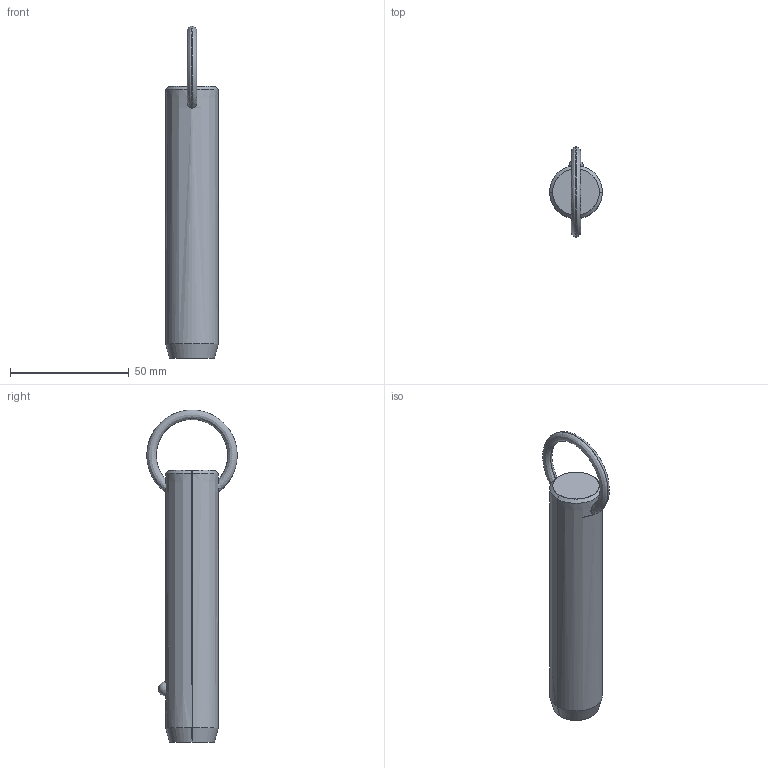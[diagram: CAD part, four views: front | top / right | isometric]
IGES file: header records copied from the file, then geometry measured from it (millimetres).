
Start section: SolidWorks IGES file using analytic representation for surfaces
Global section: file name: C:\Users\liam_\OneDrive\Documents\WORK\Work for WixRoyd\Job Files\J-00019 - Matt Davis CAD Checking\04. CAD Drawings\automotion20190605\P1250.2_v2\P1250.2_v2_20190729_IGES\P1250.087-300.igs; native system: SolidWorks 2017; preprocessor: SolidWorks 2017; author: liam_; date: 190730.000847; units: millimetre
Bounding box: 22.2 x 38.1 x 139.7 mm (x, y, z)
Surface area: 9615.4 mm2 (no closed solid volume)
Topology: 0 solids, 0 shells, 12 faces, 302 edges, 300 vertices
Faces by surface type: revolution 8, bspline 4
